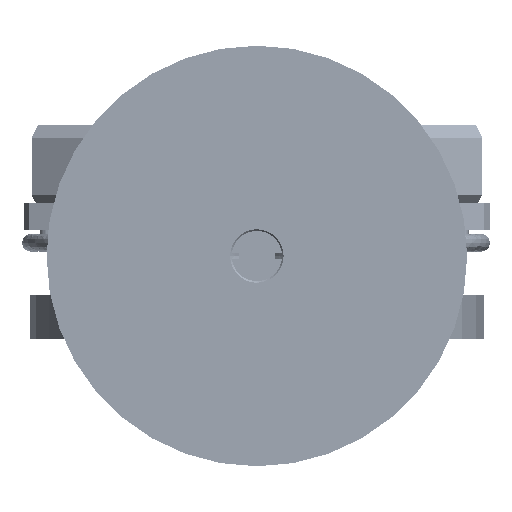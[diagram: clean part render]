
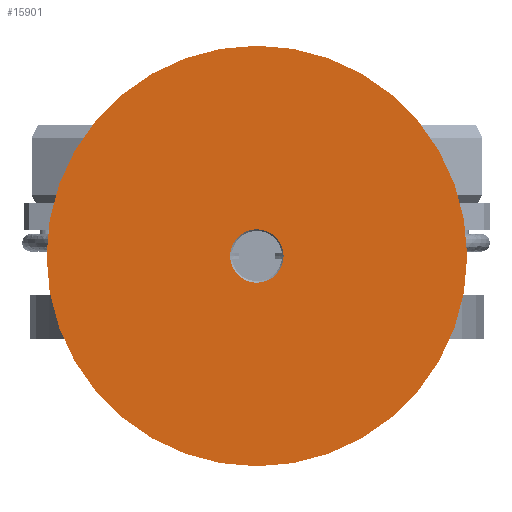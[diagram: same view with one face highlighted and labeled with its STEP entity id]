
A CAD part, front view. The second image highlights one B-rep face of the part: STEP entity #15901.
In plain terms, the highlighted planar face has unit normal (0, -1, 0).
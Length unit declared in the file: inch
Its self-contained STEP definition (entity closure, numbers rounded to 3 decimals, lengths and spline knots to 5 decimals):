
#3506=FACE_BOUND('',#4979,.T.);
#3789=FACE_OUTER_BOUND('',#4978,.T.);
#4978=EDGE_LOOP('',(#11048));
#4979=EDGE_LOOP('',(#11049));
#6215=CIRCLE('',#17156,3.);
#6217=CIRCLE('',#17160,0.381);
#7170=VERTEX_POINT('',#27584);
#7172=VERTEX_POINT('',#27590);
#8572=EDGE_CURVE('',#7170,#7170,#6215,.T.);
#8574=EDGE_CURVE('',#7172,#7172,#6217,.T.);
#11048=ORIENTED_EDGE('',*,*,#8572,.T.);
#11049=ORIENTED_EDGE('',*,*,#8574,.T.);
#15093=PLANE('',#17163);
#15901=ADVANCED_FACE('',(#3789,#3506),#15093,.F.);
#17156=AXIS2_PLACEMENT_3D('',#27585,#19583,#19584);
#17160=AXIS2_PLACEMENT_3D('',#27591,#19591,#19592);
#17163=AXIS2_PLACEMENT_3D('',#27595,#19597,#19598);
#19583=DIRECTION('center_axis',(0.,-1.,0.));
#19584=DIRECTION('ref_axis',(1.,0.,0.));
#19591=DIRECTION('center_axis',(0.,1.,0.));
#19592=DIRECTION('ref_axis',(1.,0.,0.));
#19597=DIRECTION('center_axis',(0.,1.,0.));
#19598=DIRECTION('ref_axis',(0.,0.,1.));
#27584=CARTESIAN_POINT('',(-3.,0.,0.));
#27585=CARTESIAN_POINT('Origin',(0.,0.,0.));
#27590=CARTESIAN_POINT('',(0.381,0.,0.));
#27591=CARTESIAN_POINT('Origin',(0.,0.,0.));
#27595=CARTESIAN_POINT('Origin',(0.,0.,0.));
